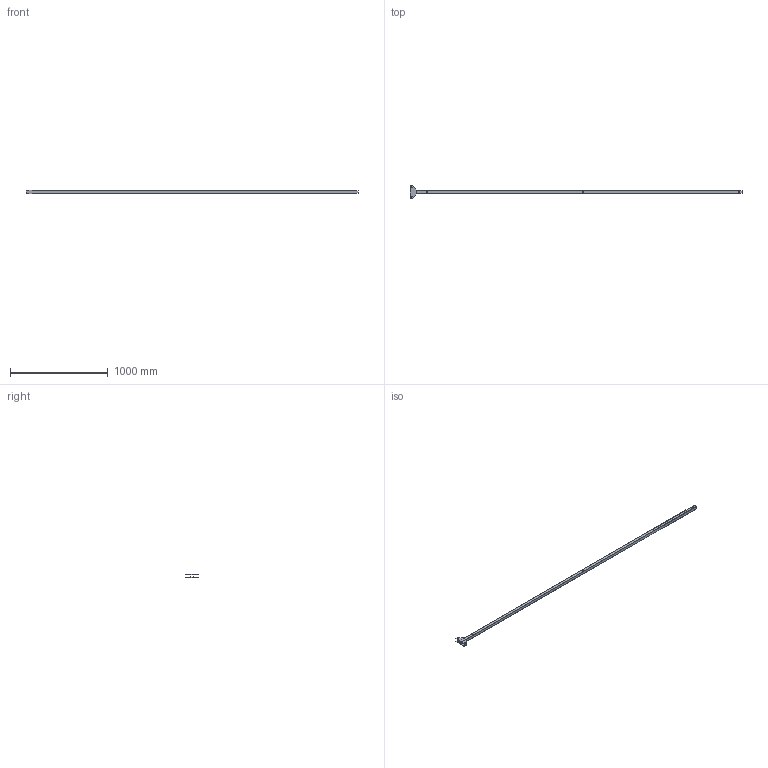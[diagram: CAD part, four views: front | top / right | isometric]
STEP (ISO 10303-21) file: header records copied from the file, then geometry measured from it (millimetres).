
FILE_DESCRIPTION(/* description */ (''),/* implementation_level */ '2;1');
FILE_NAME(/* name */ '2020TOMO-PAV-Barra2_v4.stp',/* time_stamp */ '2022-05-16T13:55:22+02:00',/* author */ (''),/* organization */ (''),/* preprocessor_version */ 'ST-DEVELOPER v18.102',/* originating_system */ 'SIEMENS PLM Software NX 2000',/* authorisation */ '');
FILE_SCHEMA (('AUTOMOTIVE_DESIGN { 1 0 10303 214 3 1 1 1 }'));
Length unit declared in the file: millimetre
Products named in the file (1): turc3144724Fyyg5
Bounding box: 3390.66 x 127.19 x 36 mm (x, y, z)
Volume: 615505.4 mm3; surface area: 799250.1 mm2
Topology: 3 solids, 3 shells, 36 faces, 93 edges, 63 vertices
Faces by surface type: plane 26, cylinder 10
Full cylindrical faces by diameter (mm): 12 x10
Entity records: 1110 total; most frequent: CARTESIAN_POINT 177, DIRECTION 174, ORIENTED_EDGE 160, EDGE_CURVE 80, EDGE_LOOP 68, VERTEX_POINT 60, LINE 60, VECTOR 60
